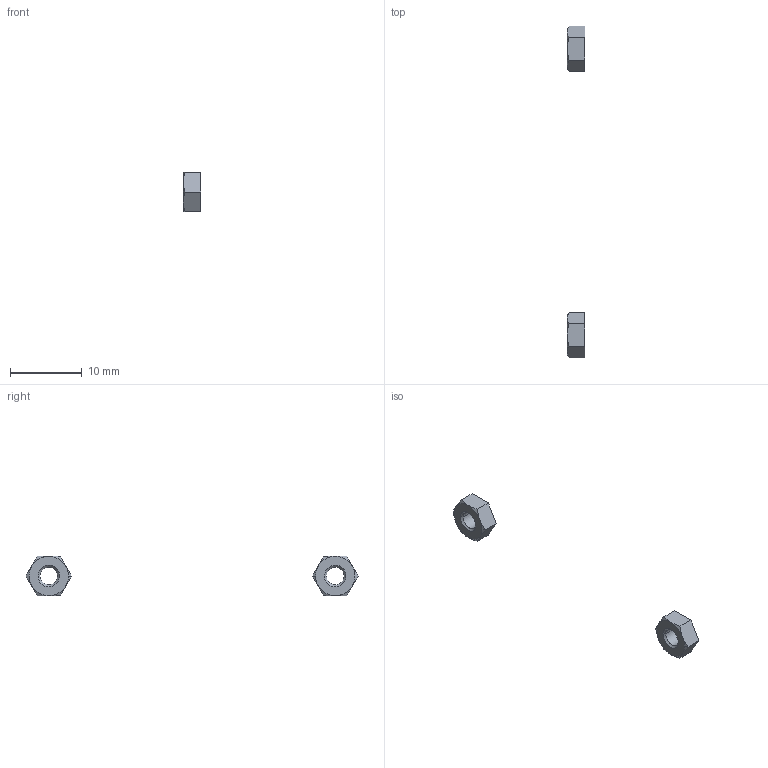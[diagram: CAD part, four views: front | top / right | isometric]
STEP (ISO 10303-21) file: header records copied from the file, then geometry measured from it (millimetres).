
FILE_DESCRIPTION(/* description */ (''),/* implementation_level */ '2;1');
FILE_NAME(/* name */ '9.electronics#9.4#LBNR3',/* time_stamp */ '2014-12-01T20:18:50+01:00',/* author */ (''),/* organization */ (''),/* preprocessor_version */ 'ST-DEVELOPER v14',/* originating_system */ '',/* authorisation */ '');
FILE_SCHEMA (('AUTOMOTIVE_DESIGN'));
Length unit declared in the file: millimetre
Products named in the file (1): Document
Bounding box: 2.4 x 46.35 x 5.5 mm (x, y, z)
Volume: 101.3 mm3; surface area: 207.3 mm2
Topology: 2 solids, 2 shells, 44 faces, 96 edges, 56 vertices
Faces by surface type: bspline 28, plane 16
Entity records: 2689 total; most frequent: CARTESIAN_POINT 1449, ORIENTED_EDGE 192, PCURVE 192, DEFINITIONAL_REPRESENTATION 192, B_SPLINE_CURVE_WITH_KNOTS 184, SURFACE_CURVE 96, EDGE_CURVE 96, VERTEX_POINT 56
